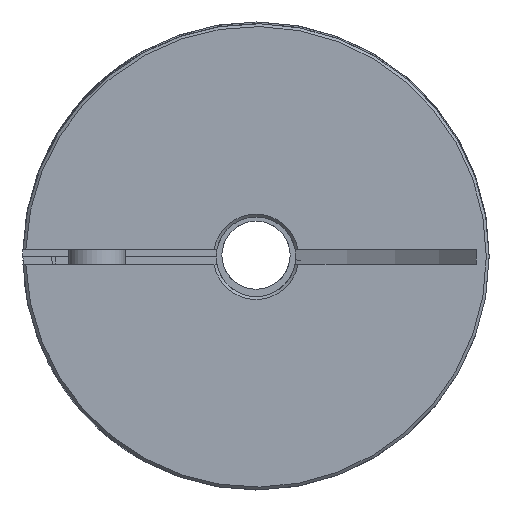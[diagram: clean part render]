
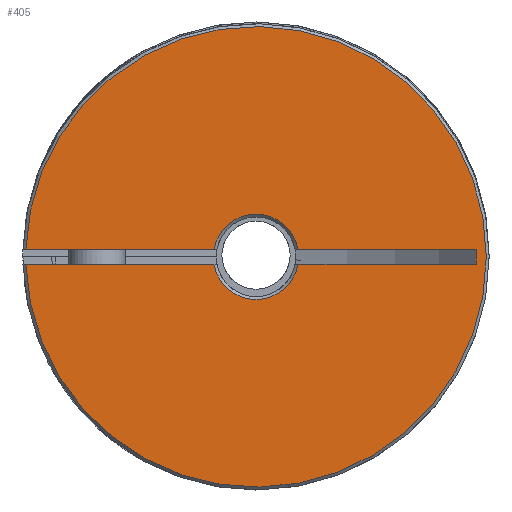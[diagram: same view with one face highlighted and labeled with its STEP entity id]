
A CAD part, left-side view. The second image highlights one B-rep face of the part: STEP entity #405.
In plain terms, the highlighted planar face has unit normal (-1, 0, 0).
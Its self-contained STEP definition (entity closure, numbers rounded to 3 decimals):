
#405 = ADVANCED_FACE( 'NONE', ( #870 ), #871, .F. );
#870 = FACE_OUTER_BOUND( '', #1479, .T. );
#871 = PLANE( '', #1480 );
#1479 = EDGE_LOOP( '', ( #2342, #2343, #2344, #2345, #2346, #2347, #2348, #2349 ) );
#1480 = AXIS2_PLACEMENT_3D( '', #2350, #2351, #2352 );
#2342 = ORIENTED_EDGE( '', *, *, #3236, .T. );
#2343 = ORIENTED_EDGE( '', *, *, #3429, .T. );
#2344 = ORIENTED_EDGE( '', *, *, #3462, .T. );
#2345 = ORIENTED_EDGE( '', *, *, #3463, .T. );
#2346 = ORIENTED_EDGE( '', *, *, #3464, .F. );
#2347 = ORIENTED_EDGE( '', *, *, #3465, .T. );
#2348 = ORIENTED_EDGE( '', *, *, #3341, .F. );
#2349 = ORIENTED_EDGE( '', *, *, #3466, .T. );
#2350 = CARTESIAN_POINT( '', ( 0., 7., 0. ) );
#2351 = DIRECTION( '', ( 1., 0., 0. ) );
#2352 = DIRECTION( '', ( 0., 1., 0. ) );
#3236 = EDGE_CURVE( 'NONE', #3757, #3755, #3758, .T. );
#3341 = EDGE_CURVE( 'NONE', #3938, #3939, #3940, .F. );
#3429 = EDGE_CURVE( 'NONE', #3755, #4073, #4075, .T. );
#3462 = EDGE_CURVE( 'NONE', #4073, #4128, #4129, .T. );
#3463 = EDGE_CURVE( 'NONE', #4128, #4130, #4131, .F. );
#3464 = EDGE_CURVE( 'NONE', #4132, #4130, #4133, .F. );
#3465 = EDGE_CURVE( 'NONE', #4132, #3939, #4134, .T. );
#3466 = EDGE_CURVE( 'NONE', #3938, #3757, #4135, .T. );
#3755 = VERTEX_POINT( 'NONE', #4562 );
#3757 = VERTEX_POINT( 'NONE', #4567 );
#3758 = LINE( '', #4568, #4569 );
#3938 = VERTEX_POINT( 'NONE', #4766 );
#3939 = VERTEX_POINT( 'NONE', #4767 );
#3940 = LINE( '', #4768, #4769 );
#4073 = VERTEX_POINT( 'NONE', #4944 );
#4075 = CIRCLE( '', #4949, 7.5 );
#4128 = VERTEX_POINT( 'NONE', #5009 );
#4129 = LINE( '', #5010, #5011 );
#4130 = VERTEX_POINT( 'NONE', #5012 );
#4131 = CIRCLE( '', #5013, 40.5 );
#4132 = VERTEX_POINT( 'NONE', #5014 );
#4133 = LINE( '', #5015, #5016 );
#4134 = CIRCLE( '', #5017, 7.5 );
#4135 = LINE( '', #5018, #5019 );
#4562 = CARTESIAN_POINT( '', ( 0., 1.3, -7.386 ) );
#4567 = CARTESIAN_POINT( '', ( 0., 1.3, -38.697 ) );
#4568 = CARTESIAN_POINT( '', ( 0., 1.3, 0. ) );
#4569 = VECTOR( '', #5662, 1000. );
#4766 = CARTESIAN_POINT( '', ( 0., -1.3, -38.697 ) );
#4767 = CARTESIAN_POINT( '', ( 0., -1.3, -7.386 ) );
#4768 = CARTESIAN_POINT( '', ( 0., -1.3, 11. ) );
#4769 = VECTOR( '', #5887, 1000. );
#4944 = CARTESIAN_POINT( '', ( 0., 1.3, 7.386 ) );
#4949 = AXIS2_PLACEMENT_3D( '', #6005, #6006, #6007 );
#5009 = CARTESIAN_POINT( '', ( 0., 1.3, 40.479 ) );
#5010 = CARTESIAN_POINT( '', ( 0., 1.3, 0. ) );
#5011 = VECTOR( '', #6060, 1000. );
#5012 = CARTESIAN_POINT( '', ( 0., -1.3, 40.479 ) );
#5013 = AXIS2_PLACEMENT_3D( '', #6061, #6062, #6063 );
#5014 = CARTESIAN_POINT( '', ( 0., -1.3, 7.386 ) );
#5015 = CARTESIAN_POINT( '', ( 0., -1.3, 11. ) );
#5016 = VECTOR( '', #6064, 1000. );
#5017 = AXIS2_PLACEMENT_3D( '', #6065, #6066, #6067 );
#5018 = CARTESIAN_POINT( '', ( 0., -1.3, -38.697 ) );
#5019 = VECTOR( '', #6068, 1000. );
#5662 = DIRECTION( '', ( 0., 0., 1. ) );
#5887 = DIRECTION( '', ( 0., 0., -1. ) );
#6005 = CARTESIAN_POINT( '', ( 0., 0., 0. ) );
#6006 = DIRECTION( '', ( 1., 0., 0. ) );
#6007 = DIRECTION( '', ( 0., 0., -1. ) );
#6060 = DIRECTION( '', ( 0., 0., 1. ) );
#6061 = CARTESIAN_POINT( '', ( 0., 0., 0. ) );
#6062 = DIRECTION( '', ( 1., 0., 0. ) );
#6063 = DIRECTION( '', ( 0., 0., -1. ) );
#6064 = DIRECTION( '', ( 0., 0., -1. ) );
#6065 = CARTESIAN_POINT( '', ( 0., 0., 0. ) );
#6066 = DIRECTION( '', ( 1., 0., 0. ) );
#6067 = DIRECTION( '', ( 0., 0., -1. ) );
#6068 = DIRECTION( '', ( 0., 1., 0. ) );
